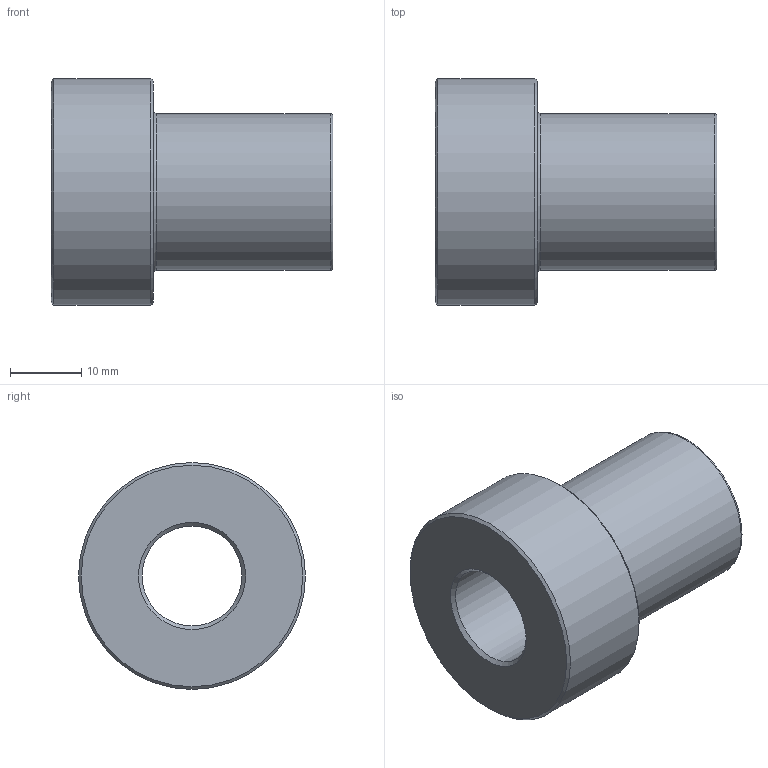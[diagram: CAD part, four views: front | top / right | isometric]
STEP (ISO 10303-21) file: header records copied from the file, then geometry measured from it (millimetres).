
FILE_DESCRIPTION( ( 'STEP AP214' ), '1' );
FILE_NAME( 'p:/temp/worker_34/temp/app_54_02019012316272777154611192d056f_000000_00_00_000000/format_0/MB4XLSS.stp', '2019-01-23T15:27:28', ( '' ), ( '' ), ' ', 'PARTsolutions', ' ' );
FILE_SCHEMA( ( 'AUTOMOTIVE_DESIGN { 1 0 10303 214 1 1 1 1 }' ) );
Length unit declared in the file: inch
Products named in the file (1): _MB4XLSS
Bounding box: 39.5 x 31.8 x 31.8 mm (x, y, z)
Volume: 14842.6 mm3; surface area: 6095.1 mm2
Topology: 1 solids, 1 shells, 12 faces, 21 edges, 12 vertices
Faces by surface type: cone 4, plane 3, cylinder 3, torus 2
Full cylindrical faces by diameter (mm): 14 x1, 21.99 x1, 31.8 x1
Entity records: 360 total; most frequent: DIRECTION 50, CARTESIAN_POINT 37, AXIS2_PLACEMENT_3D 25, EDGE_LOOP 24, ORIENTED_EDGE 24, FACE_OUTER_BOUND 17, STYLED_ITEM 12, PRESENTATION_STYLE_ASSIGNMENT 12
